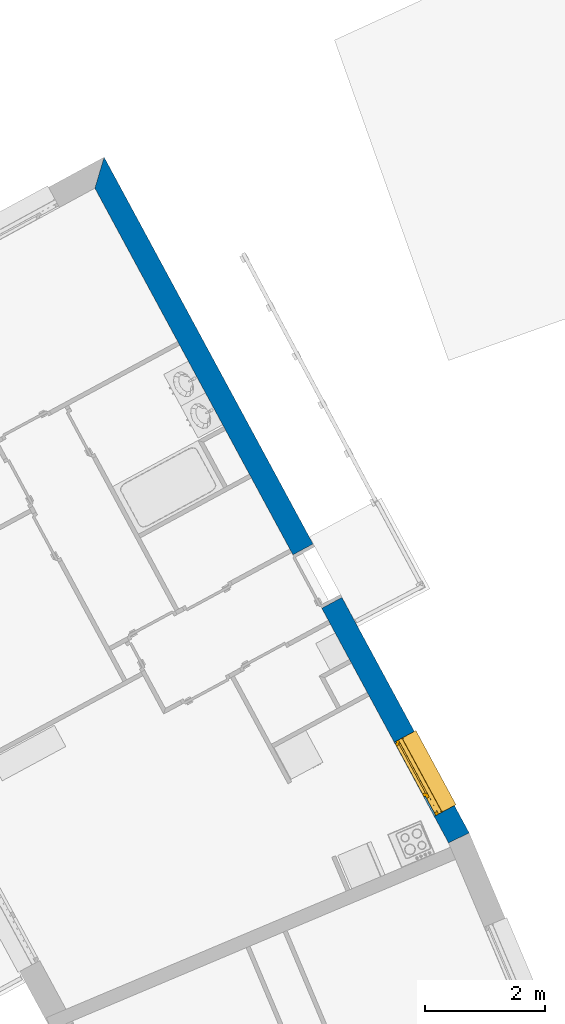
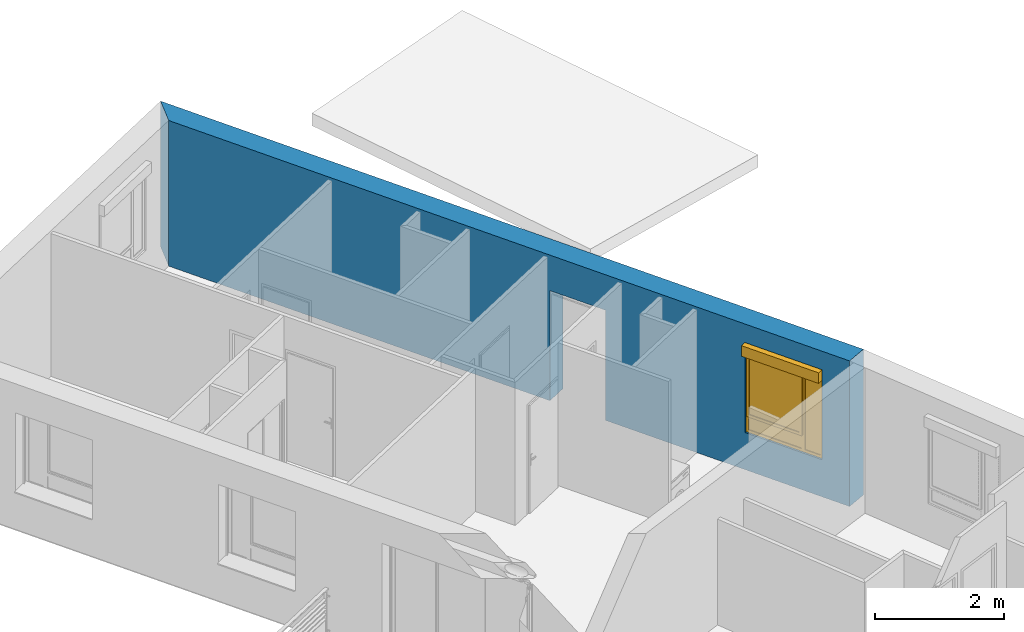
# One storey, part 57 of 121: 1 wall, 1 window, 2 openings.
"""IFC2X3 building model written with IfcOpenShell, lengths in metres."""

from ifc_helpers import new_model, entity, si_unit, converted_unit, derived_unit, money_unit, direction, frame, origin_with_axes, origin_2d_with_axis, place, context, subcontext, project, spatial, polyline, rectangle, outline, extrude, open_shell, faceted_brep, surface_model, source, transform, mapped, material, layer, layer_set, layer_usage, type_object, element, fill, save


model = new_model("IFC2X3")

# Units and contexts
model_context = context("Model", 3, precision=1e-05, world=origin_with_axes(), true_north=direction((0.0, 1.0)))
body_context = subcontext(model_context, "Body", "Model", "MODEL_VIEW")
ifc_project = project(units=[si_unit("LENGTHUNIT", "METRE"), si_unit("AREAUNIT", "SQUARE_METRE"), si_unit("VOLUMEUNIT", "CUBIC_METRE"), converted_unit("PLANEANGLEUNIT", "DEGREE", entity("IfcPlaneAngleMeasure", 0.0174532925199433), si_unit("PLANEANGLEUNIT", "RADIAN"), dimensions=[0, 0, 0, 0, 0, 0, 0]), money_unit("CHF"), converted_unit("TIMEUNIT", "Year", entity("IfcTimeMeasure", 31557600.0), si_unit("TIMEUNIT", "SECOND"), dimensions=[0, 0, 1, 0, 0, 0, 0]), si_unit("MASSUNIT", "GRAM", prefix="KILO"), si_unit("THERMODYNAMICTEMPERATUREUNIT", "DEGREE_CELSIUS"), si_unit("LUMINOUSINTENSITYUNIT", "LUMEN"), si_unit("ENERGYUNIT", "JOULE", prefix="MEGA"), derived_unit("THERMALCONDUCTANCEUNIT", [(si_unit("POWERUNIT", "WATT"), 1), (si_unit("LENGTHUNIT", "METRE"), -1), (si_unit("THERMODYNAMICTEMPERATUREUNIT", "KELVIN"), -1)]), derived_unit("SPECIFICHEATCAPACITYUNIT", [(si_unit("ENERGYUNIT", "JOULE"), 1), (si_unit("MASSUNIT", "GRAM", prefix="KILO"), -1), (si_unit("THERMODYNAMICTEMPERATUREUNIT", "KELVIN"), -1)]), derived_unit("MASSDENSITYUNIT", [(si_unit("MASSUNIT", "GRAM", prefix="KILO"), 1), (si_unit("VOLUMEUNIT", "CUBIC_METRE"), -1)])], contexts=[model_context])

# Site, building, storey
site_placement = place(None, origin_with_axes())
site = spatial("IfcSite", under=ifc_project, at=site_placement, Name="Site", CompositionType="ELEMENT")
building_placement = place(site_placement, origin_with_axes())
building = spatial("IfcBuilding", under=site, at=building_placement, Name="Bâtiment", CompositionType="ELEMENT")
storey_placement = place(building_placement, frame((0.0, 0.0, 2.75), z_axis=(0.0, 0.0, 1.0), x_axis=(1.0, 0.0, 0.0)))
storey = spatial("IfcBuildingStorey", under=building, at=storey_placement, Name="Etage 1", CompositionType="ELEMENT", Elevation=2.75)

# Wall, openings, window
ifc_material_1 = material(Name="Parpaing 312445824")
ifc_layer_1 = layer(ifc_material_1, 0.22, ventilated="UNKNOWN")
ifc_material_2 = material(Name="Isolant styromousse 301821074")
ifc_layer_2 = layer(ifc_material_2, 0.16, ventilated="UNKNOWN")
ifc_layer_set = layer_set([ifc_layer_1, ifc_layer_2], Name="isol int 22+16 0836643197")
ifc_layer_usage = layer_usage(ifc_layer_set, "AXIS2", "NEGATIVE", 0.0)
wall_type = type_object("IfcWallType", Name="isol int 22+16 0836643197 380", PredefinedType="NOTDEFINED")
wall_placement = place(storey_placement, frame((9561.285709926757, -1024.008620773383, 57.7), z_axis=(0.0, 0.0, 1.0), x_axis=(0.4753186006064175, -0.8798137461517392, 0.0)))
wall = element("IfcWallStandardCase", 1, at=wall_placement, inside=storey, type_object=wall_type, material=ifc_layer_usage, Name="Mur-113", context=body_context, shape_type="SweptSolid", body=[
    extrude(outline(polyline([(0.3809761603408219, -0.3800000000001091), (12.75104633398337, -0.3799999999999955), (12.76934803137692, 0.0), (0.0, 0.0), (0.3809761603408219, -0.3800000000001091)])), origin_with_axes(), (0.0, 0.0, 1.0), 2.75),
])
opening_1_placement = place(wall_placement, frame((11.55059904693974, 0.0, 0.7000000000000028), z_axis=(0.0, 0.0, 1.0), x_axis=(1.0, 0.0, 0.0)))
opening_1 = element("IfcOpeningElement", 2, at=opening_1_placement, cuts=wall, Name="Fen-045", context=body_context, shape_type="Brep", body=[
    faceted_brep([(-0.6999999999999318, -0.2199999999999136, 1.5), (0.7000000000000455, -0.2199999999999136, 1.5), (0.7000000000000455, 5.341037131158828, 1.5), (-0.7000000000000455, 5.341037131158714, 1.5), (-0.6999999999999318, -0.2199999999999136, 1.700000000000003), (0.7000000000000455, -0.2199999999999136, 1.700000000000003), (0.7000000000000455, -0.3000000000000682, 1.5), (0.7000000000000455, -0.3000000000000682, 0.0), (0.7000000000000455, 5.341037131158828, 0.0), (-0.7000000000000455, 5.341037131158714, 0.0), (-0.7000000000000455, -0.3000000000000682, 1.5), (-0.7000000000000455, -0.3000000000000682, 0.0), (-0.7000000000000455, -0.4800000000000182, 1.5), (-0.7000000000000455, -0.4800000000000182, 1.700000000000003), (0.7000000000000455, -0.4800000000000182, 1.700000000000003), (0.7000000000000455, -0.4800000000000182, 1.5), (0.7000000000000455, -5.721037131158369, 1.5), (0.7000000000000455, -5.721037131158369, 0.0), (-0.7000000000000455, -5.721037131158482, 0.0), (-0.7000000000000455, -5.721037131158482, 1.5)], [[[0, 1, 2, 3]], [[1, 0, 4, 5]], [[1, 6, 7, 8, 2]], [[2, 8, 9, 3]], [[10, 0, 3, 9, 11]], [[0, 10, 12, 13, 4]], [[14, 5, 4, 13]], [[6, 1, 5, 14, 15]], [[6, 15, 16, 17, 7]], [[7, 11, 9, 8]], [[12, 10, 11, 18, 19]], [[12, 15, 14, 13]], [[15, 12, 19, 16]], [[19, 18, 17, 16]], [[11, 7, 17, 18]]]),
])
opening_2_placement = place(wall_placement, frame((7.813459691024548, 0.0, 0.0), z_axis=(0.0, 0.0, 1.0), x_axis=(1.0, 0.0, 0.0)))
element("IfcOpeningElement", 3, at=opening_2_placement, cuts=wall, Name="Por-299", context=body_context, shape_type="SweptSolid", body=[
    extrude(rectangle(XDim=1.01000001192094, YDim=2.079999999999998, at=origin_2d_with_axis()), frame((-5.960544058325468e-09, 0.3799999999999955, 1.039999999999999), z_axis=(0.0, -1.0, 0.0), x_axis=(-1.0, 0.0, 0.0)), (0.0, 0.0, 1.0), 0.76),
])
window_style = type_object("IfcWindowStyle", Name="Fenêtre variable 27", ConstructionType="NOTDEFINED", OperationType="TRIPLE_PANEL_LEFT", ParameterTakesPrecedence=False, Sizeable=False)
shared_shape = source(origin_with_axes(), body_context, "Body", "SurfaceModel", [
    surface_model("IfcShellBasedSurfaceModel", [(0.7, -0.05100000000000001, 0.05), (-0.7, -0.05100000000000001, 0.05000000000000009), (-0.7, -0.05100000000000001, 0.04000000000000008), (0.7, -0.05100000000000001, 0.04), (-0.7, -0.3799999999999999, 0.02900000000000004), (0.7, -0.3799999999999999, 0.02899999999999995), (-0.7, -0.3799999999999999, 0.00900000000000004), (0.7, -0.3799999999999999, 0.008999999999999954), (-0.7, -0.3699999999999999, 0.01900000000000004), (0.7, -0.3699999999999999, 0.01899999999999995)], [open_shell([[[0, 1, 2, 3]], [[3, 2, 4, 5]], [[5, 4, 6, 7]], [[7, 6, 8, 9]]])]),
    faceted_brep([(0.7, -0.13, 1.7), (0.7, 0.13, 1.7), (0.697, 0.13, 1.7), (0.697, -0.13, 1.7), (0.7, -0.13, 1.5), (0.7, 0.13, 1.5), (0.697, 0.13, 1.5), (0.697, -0.13, 1.5)], [[[0, 1, 2, 3]], [[0, 4, 5, 1]], [[1, 5, 6, 2]], [[3, 2, 6, 7]], [[4, 0, 3, 7]], [[5, 4, 7, 6]]]),
    faceted_brep([(-0.6970000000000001, -0.1299999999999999, 1.7), (-0.6970000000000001, 0.1300000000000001, 1.7), (-0.7000000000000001, 0.1300000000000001, 1.7), (-0.7000000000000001, -0.1299999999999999, 1.7), (-0.6970000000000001, -0.1299999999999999, 1.5), (-0.6970000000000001, 0.1300000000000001, 1.5), (-0.7000000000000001, 0.1300000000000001, 1.5), (-0.7000000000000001, -0.1299999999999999, 1.5)], [[[0, 1, 2, 3]], [[0, 4, 5, 1]], [[1, 5, 6, 2]], [[3, 2, 6, 7]], [[4, 0, 3, 7]], [[5, 4, 7, 6]]]),
    faceted_brep([(0.697, -0.13, 1.5), (0.697, -0.13, 1.7), (-0.697, -0.1299999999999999, 1.7), (-0.697, -0.1299999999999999, 1.5), (0.697, -0.127, 1.5), (0.697, -0.127, 1.697), (0.697, 0.127, 1.697), (0.697, 0.127, 1.503), (0.697, -0.108, 1.503), (0.697, -0.108, 1.5), (0.697, 0.13, 1.5), (0.697, 0.13, 1.7), (-0.697, 0.1300000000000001, 1.7), (-0.697, 0.1300000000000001, 1.5), (-0.697, -0.1079999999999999, 1.5), (-0.697, -0.1079999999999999, 1.503), (-0.697, 0.1270000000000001, 1.503), (-0.697, 0.1270000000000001, 1.697), (-0.697, -0.1269999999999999, 1.697), (-0.697, -0.1269999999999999, 1.5)], [[[0, 1, 2, 3]], [[0, 4, 5, 6, 7, 8, 9, 10, 11, 1]], [[1, 11, 12, 2]], [[3, 2, 12, 13, 14, 15, 16, 17, 18, 19]], [[4, 0, 3, 19]], [[5, 4, 19, 18]], [[6, 5, 18, 17]], [[7, 6, 17, 16]], [[8, 7, 16, 15]], [[9, 8, 15, 14]], [[10, 9, 14, 13]], [[11, 10, 13, 12]]]),
    faceted_brep([(0.694, -0.08075423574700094, 1.585760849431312), (0.694, -0.07705479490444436, 1.571954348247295), (0.694, -0.07101408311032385, 1.559), (0.694, -0.06281564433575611, 1.547291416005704), (0.694, -0.05270858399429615, 1.537184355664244), (0.694, -0.04099999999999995, 1.528985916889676), (0.694, -0.02804565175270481, 1.522945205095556), (0.694, -0.01423915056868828, 1.519245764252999), (0.694, 0.0, 1.518), (0.694, 0.01423915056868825, 1.519245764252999), (0.694, 0.02804565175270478, 1.522945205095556), (0.694, 0.04099999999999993, 1.528985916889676), (0.694, 0.05270858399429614, 1.537184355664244), (0.694, 0.06281564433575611, 1.547291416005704), (0.694, 0.07101408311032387, 1.559), (0.694, 0.07705479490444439, 1.571954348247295), (0.694, 0.08075423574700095, 1.585760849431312), (0.694, 0.0819999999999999, 1.6), (0.694, 0.08075423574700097, 1.614239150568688), (0.694, 0.0770547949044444, 1.628045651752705), (0.694, 0.07101408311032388, 1.641), (0.694, 0.06281564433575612, 1.652708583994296), (0.694, 0.05270858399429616, 1.662815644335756), (0.694, 0.04099999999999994, 1.671014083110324), (0.694, 0.02804565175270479, 1.677054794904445), (0.694, 0.01423915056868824, 1.680754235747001), (0.694, 0.0, 1.682), (0.694, -0.01423915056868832, 1.680754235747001), (0.694, -0.02804565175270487, 1.677054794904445), (0.694, -0.04100000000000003, 1.671014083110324), (0.694, -0.05270858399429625, 1.662815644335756), (0.694, -0.06281564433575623, 1.652708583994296), (0.694, -0.07101408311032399, 1.641), (0.694, -0.07705479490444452, 1.628045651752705), (0.694, -0.0807542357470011, 1.614239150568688), (0.694, -0.08200000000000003, 1.6), (-0.694, -0.08075423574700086, 1.585760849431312), (-0.694, -0.07705479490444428, 1.571954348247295), (-0.694, -0.07101408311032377, 1.559), (-0.694, -0.06281564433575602, 1.547291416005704), (-0.694, -0.05270858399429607, 1.537184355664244), (-0.694, -0.04099999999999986, 1.528985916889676), (-0.694, -0.02804565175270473, 1.522945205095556), (-0.694, -0.0142391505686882, 1.519245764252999), (-0.694, 0.0, 1.518), (-0.694, 0.01423915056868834, 1.519245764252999), (-0.694, 0.02804565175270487, 1.522945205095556), (-0.694, 0.04100000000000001, 1.528985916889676), (-0.694, 0.05270858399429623, 1.537184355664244), (-0.694, 0.06281564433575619, 1.547291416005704), (-0.694, 0.07101408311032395, 1.559), (-0.694, 0.07705479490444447, 1.571954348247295), (-0.694, 0.08075423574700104, 1.585760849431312), (-0.694, 0.08199999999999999, 1.6), (-0.694, 0.08075423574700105, 1.614239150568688), (-0.694, 0.07705479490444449, 1.628045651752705), (-0.694, 0.07101408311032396, 1.641), (-0.694, 0.0628156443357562, 1.652708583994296), (-0.694, 0.05270858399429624, 1.662815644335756), (-0.694, 0.04100000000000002, 1.671014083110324), (-0.694, 0.02804565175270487, 1.677054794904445), (-0.694, 0.01423915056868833, 1.680754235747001), (-0.694, 0.0, 1.682), (-0.694, -0.01423915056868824, 1.680754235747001), (-0.694, -0.02804565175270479, 1.677054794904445), (-0.694, -0.04099999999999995, 1.671014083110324), (-0.694, -0.05270858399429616, 1.662815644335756), (-0.694, -0.06281564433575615, 1.652708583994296), (-0.694, -0.07101408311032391, 1.641), (-0.694, -0.07705479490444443, 1.628045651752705), (-0.694, -0.08075423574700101, 1.614239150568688), (-0.694, -0.08199999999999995, 1.6)], [[[0, 1, 2, 3, 4, 5, 6, 7, 8, 9, 10, 11, 12, 13, 14, 15, 16, 17, 18, 19, 20, 21, 22, 23, 24, 25, 26, 27, 28, 29, 30, 31, 32, 33, 34, 35]], [[1, 0, 36, 37]], [[2, 1, 37, 38]], [[3, 2, 38, 39]], [[4, 3, 39, 40]], [[5, 4, 40, 41]], [[6, 5, 41, 42]], [[7, 6, 42, 43]], [[8, 7, 43, 44]], [[9, 8, 44, 45]], [[10, 9, 45, 46]], [[11, 10, 46, 47]], [[12, 11, 47, 48]], [[13, 12, 48, 49]], [[14, 13, 49, 50]], [[15, 14, 50, 51]], [[16, 15, 51, 52]], [[17, 16, 52, 53]], [[18, 17, 53, 54]], [[19, 18, 54, 55]], [[20, 19, 55, 56]], [[21, 20, 56, 57]], [[22, 21, 57, 58]], [[23, 22, 58, 59]], [[24, 23, 59, 60]], [[25, 24, 60, 61]], [[26, 25, 61, 62]], [[27, 26, 62, 63]], [[28, 27, 63, 64]], [[29, 28, 64, 65]], [[30, 29, 65, 66]], [[31, 30, 66, 67]], [[32, 31, 67, 68]], [[33, 32, 68, 69]], [[34, 33, 69, 70]], [[35, 34, 70, 71]], [[0, 35, 71, 36]], [[36, 71, 70, 69, 68, 67, 66, 65, 64, 63, 62, 61, 60, 59, 58, 57, 56, 55, 54, 53, 52, 51, 50, 49, 48, 47, 46, 45, 44, 43, 42, 41, 40, 39, 38, 37]]]),
    faceted_brep([(-0.7, -0.105, 0.03), (-0.7, -0.13, 0.03), (-0.7, -0.1299999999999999, 1.5), (-0.7, -0.1049999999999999, 1.5), (-0.6749999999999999, -0.105, 0.03), (-0.6749999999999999, -0.108, 0.03), (-0.697, -0.108, 0.03), (-0.697, -0.127, 0.03), (-0.6749999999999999, -0.127, 0.03), (-0.6749999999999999, -0.13, 0.03), (-0.6749999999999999, -0.1299999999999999, 1.5), (-0.6749999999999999, -0.1269999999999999, 1.5), (-0.697, -0.1269999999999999, 1.5), (-0.697, -0.1079999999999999, 1.5), (-0.6749999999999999, -0.1079999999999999, 1.5), (-0.6749999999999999, -0.1049999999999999, 1.5)], [[[0, 1, 2, 3]], [[0, 4, 5, 6, 7, 8, 9, 1]], [[1, 9, 10, 2]], [[3, 2, 10, 11, 12, 13, 14, 15]], [[4, 0, 3, 15]], [[5, 4, 15, 14]], [[6, 5, 14, 13]], [[7, 6, 13, 12]], [[8, 7, 12, 11]], [[9, 8, 11, 10]]]),
    faceted_brep([(0.7, -0.105, 0.03), (0.7, -0.1049999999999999, 1.5), (0.7, -0.1299999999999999, 1.5), (0.7, -0.13, 0.03), (0.6749999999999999, -0.105, 0.03), (0.6749999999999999, -0.1049999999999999, 1.5), (0.6749999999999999, -0.1079999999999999, 1.5), (0.697, -0.1079999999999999, 1.5), (0.697, -0.1269999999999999, 1.5), (0.6749999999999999, -0.1269999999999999, 1.5), (0.6749999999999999, -0.1299999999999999, 1.5), (0.6749999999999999, -0.13, 0.03), (0.6749999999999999, -0.127, 0.03), (0.697, -0.127, 0.03), (0.697, -0.108, 0.03), (0.6749999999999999, -0.108, 0.03)], [[[0, 1, 2, 3]], [[4, 5, 1, 0]], [[1, 5, 6, 7, 8, 9, 10, 2]], [[3, 2, 10, 11]], [[0, 3, 11, 12, 13, 14, 15, 4]], [[15, 6, 5, 4]], [[14, 7, 6, 15]], [[13, 8, 7, 14]], [[12, 9, 8, 13]], [[11, 10, 9, 12]]]),
    surface_model("IfcShellBasedSurfaceModel", [(0.697, -0.115, 1.6), (-0.697, -0.1149999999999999, 1.6), (-0.697, -0.12, 1.6), (0.697, -0.12, 1.6), (0.697, -0.115, 1.6), (0.697, -0.12, 1.6), (-0.697, -0.1199999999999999, 1.6), (-0.697, -0.1149999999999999, 1.6)], [open_shell([[[0, 1, 2, 3]], [[4, 5, 6, 7]]])]),
    faceted_brep([(0.697, -0.115, 1.6), (0.697, -0.1166666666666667, 1.583333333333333), (-0.697, -0.1166666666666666, 1.583333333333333), (-0.697, -0.1149999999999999, 1.6), (0.697, -0.12, 1.6), (0.697, -0.1216666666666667, 1.583333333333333), (0.697, -0.1216666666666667, 1.566666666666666), (0.697, -0.12, 1.55), (0.697, -0.115, 1.55), (0.697, -0.1166666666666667, 1.566666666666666), (-0.697, -0.1166666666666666, 1.566666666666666), (-0.697, -0.1149999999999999, 1.55), (-0.697, -0.1199999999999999, 1.55), (-0.697, -0.1216666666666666, 1.566666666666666), (-0.697, -0.1216666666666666, 1.583333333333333), (-0.697, -0.1199999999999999, 1.6)], [[[0, 1, 2, 3]], [[0, 4, 5, 6, 7, 8, 9, 1]], [[1, 9, 10, 2]], [[3, 2, 10, 11, 12, 13, 14, 15]], [[4, 0, 3, 15]], [[5, 4, 15, 14]], [[6, 5, 14, 13]], [[7, 6, 13, 12]], [[8, 7, 12, 11]], [[9, 8, 11, 10]]]),
    faceted_brep([(0.697, -0.115, 1.55), (0.697, -0.1166666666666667, 1.533333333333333), (-0.697, -0.1166666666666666, 1.533333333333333), (-0.697, -0.1149999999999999, 1.55), (0.697, -0.12, 1.55), (0.697, -0.1216666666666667, 1.533333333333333), (0.697, -0.1216666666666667, 1.516666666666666), (0.697, -0.12, 1.5), (0.697, -0.115, 1.5), (0.697, -0.1166666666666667, 1.516666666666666), (-0.697, -0.1166666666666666, 1.516666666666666), (-0.697, -0.1149999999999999, 1.5), (-0.697, -0.1199999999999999, 1.5), (-0.697, -0.1216666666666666, 1.516666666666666), (-0.697, -0.1216666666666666, 1.533333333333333), (-0.697, -0.1199999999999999, 1.55)], [[[0, 1, 2, 3]], [[0, 4, 5, 6, 7, 8, 9, 1]], [[1, 9, 10, 2]], [[3, 2, 10, 11, 12, 13, 14, 15]], [[4, 0, 3, 15]], [[5, 4, 15, 14]], [[6, 5, 14, 13]], [[7, 6, 13, 12]], [[8, 7, 12, 11]], [[9, 8, 11, 10]]]),
    faceted_brep([(0.6749999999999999, 0.0, 1.45), (0.6749999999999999, -0.02500000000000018, 1.45), (0.6499999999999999, -0.02500000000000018, 1.45), (0.6499999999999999, -0.05000000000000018, 1.45), (0.7, -0.05000000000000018, 1.45), (0.7, 0.0, 1.45), (0.6749999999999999, 0.0, 0.3099999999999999), (0.6749999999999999, -0.02500000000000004, 0.3099999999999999), (0.6499999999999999, -0.02500000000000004, 0.335), (0.6499999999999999, -0.02500000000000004, 0.3099999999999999), (0.6499999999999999, -0.05000000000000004, 0.335), (0.6499999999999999, -0.05000000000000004, 0.265), (0.6499999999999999, -0.05000000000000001, 0.05000000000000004), (0.7, -0.05000000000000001, 0.05000000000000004), (0.7, 0.0, 0.05000000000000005), (0.6499999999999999, 0.0, 0.05000000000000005), (0.6499999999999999, 0.0, 0.265), (0.6499999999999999, 0.0, 0.3099999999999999)], [[[0, 1, 2, 3, 4, 5]], [[1, 0, 6, 7]], [[8, 2, 1, 7, 9]], [[2, 8, 10, 3]], [[10, 11, 12, 13, 4, 3]], [[5, 4, 13, 14]], [[6, 0, 5, 14, 15, 16, 17]], [[6, 17, 9, 7]], [[9, 17, 16, 11, 10, 8]], [[15, 12, 11, 16]], [[14, 13, 12, 15]]]),
    faceted_brep([(-0.3068894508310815, -0.02500000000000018, 1.45), (-0.3318894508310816, -0.02500000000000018, 1.45), (-0.3318894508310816, 0.0, 1.45), (-0.3768894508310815, 0.0, 1.45), (-0.3768894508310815, -0.05000000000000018, 1.45), (-0.3068894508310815, -0.05000000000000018, 1.45), (-0.3068894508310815, -0.02500000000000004, 0.335), (-0.3068894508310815, -0.02500000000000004, 0.3099999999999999), (-0.3318894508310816, -0.02500000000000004, 0.3099999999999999), (-0.3318894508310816, 0.0, 0.3099999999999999), (-0.3068894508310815, 0.0, 0.3099999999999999), (-0.3068894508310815, 0.0, 0.265), (-0.3068894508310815, 0.0, 0.05000000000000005), (-0.3768894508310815, 0.0, 0.05000000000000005), (-0.3768894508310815, -0.05000000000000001, 0.05000000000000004), (-0.3068894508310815, -0.05000000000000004, 0.265), (-0.3068894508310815, -0.05000000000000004, 0.335), (-0.3068894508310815, -0.05000000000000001, 0.05000000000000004)], [[[0, 1, 2, 3, 4, 5]], [[1, 0, 6, 7, 8]], [[9, 2, 1, 8]], [[9, 10, 11, 12, 13, 3, 2]], [[13, 14, 4, 3]], [[15, 16, 5, 4, 14, 17]], [[6, 0, 5, 16]], [[7, 6, 16, 15, 11, 10]], [[10, 9, 8, 7]], [[11, 15, 17, 12]], [[12, 17, 14, 13]]]),
    faceted_brep([(0.6499999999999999, -0.02500000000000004, 0.335), (-0.3068894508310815, -0.02500000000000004, 0.335), (-0.3068894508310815, -0.05000000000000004, 0.335), (0.6499999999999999, -0.05000000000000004, 0.335), (-0.3068894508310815, -0.02500000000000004, 0.3099999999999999), (0.6499999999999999, -0.02500000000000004, 0.3099999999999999), (-0.3068894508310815, 0.0, 0.3099999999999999), (-0.3068894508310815, 0.0, 0.265), (-0.3068894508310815, -0.05000000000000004, 0.265), (0.6499999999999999, -0.05000000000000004, 0.265), (0.6499999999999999, 0.0, 0.265), (0.6499999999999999, 0.0, 0.3099999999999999)], [[[0, 1, 2, 3]], [[4, 1, 0, 5]], [[4, 6, 7, 8, 2, 1]], [[2, 8, 9, 3]], [[5, 0, 3, 9, 10, 11]], [[11, 6, 4, 5]], [[6, 11, 10, 7]], [[10, 9, 8, 7]]]),
    faceted_brep([(0.6749999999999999, 0.0, 1.45), (0.6749999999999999, 0.0, 1.475), (-0.3318894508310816, 0.0, 1.475), (-0.3318894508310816, 0.0, 1.45), (-0.3768894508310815, 0.0, 1.45), (-0.6499999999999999, 0.0, 1.45), (-0.7, 0.0, 1.45), (-0.7, 0.0, 1.5), (0.7, 0.0, 1.5), (0.7, 0.0, 1.45), (0.6749999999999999, -0.02500000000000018, 1.45), (0.6749999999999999, -0.02500000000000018, 1.475), (-0.3318894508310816, -0.02500000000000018, 1.475), (-0.3318894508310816, -0.02500000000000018, 1.45), (-0.3068894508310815, -0.02500000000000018, 1.45), (-0.3068894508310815, -0.05000000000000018, 1.45), (-0.3768894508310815, -0.05000000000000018, 1.45), (-0.6499999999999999, -0.05000000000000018, 1.45), (-0.7, -0.05000000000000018, 1.45), (-0.7, -0.05000000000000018, 1.5), (0.7, -0.05000000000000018, 1.5), (0.7, -0.05000000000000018, 1.45), (0.6499999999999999, -0.05000000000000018, 1.45), (0.6499999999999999, -0.02500000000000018, 1.45)], [[[0, 1, 2, 3, 4, 5, 6, 7, 8, 9]], [[1, 0, 10, 11]], [[2, 1, 11, 12]], [[3, 2, 12, 13]], [[13, 14, 15, 16, 4, 3]], [[4, 16, 17, 5]], [[5, 17, 18, 6]], [[6, 18, 19, 7]], [[7, 19, 20, 8]], [[8, 20, 21, 9]], [[10, 0, 9, 21, 22, 23]], [[14, 13, 12, 11, 10, 23]], [[14, 23, 22, 15]], [[16, 15, 22, 21, 20, 19, 18, 17]]]),
    faceted_brep([(-0.6499999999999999, -0.05000000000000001, 0.05), (-0.7, -0.05000000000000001, 0.05), (-0.7, 0.0, 0.05000000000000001), (-0.6499999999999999, 0.0, 0.05000000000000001), (-0.6499999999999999, -0.05000000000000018, 1.45), (-0.7, -0.05000000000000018, 1.45), (-0.7, 0.0, 1.45), (-0.6499999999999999, 0.0, 1.45)], [[[0, 1, 2, 3]], [[0, 4, 5, 1]], [[1, 5, 6, 2]], [[3, 2, 6, 7]], [[4, 0, 3, 7]], [[5, 4, 7, 6]]]),
    faceted_brep([(0.6499999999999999, -0.05000000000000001, 0.05), (0.7, -0.05000000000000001, 0.05), (0.7, 0.0, 0.05000000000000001), (0.6499999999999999, 0.0, 0.05000000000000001), (-0.3068894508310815, -0.05000000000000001, 0.05), (-0.3768894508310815, -0.05000000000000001, 0.05), (-0.6499999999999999, -0.05000000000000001, 0.05), (-0.7, -0.05000000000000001, 0.05), (-0.7, -0.05, 0.0), (0.7, -0.05, 0.0), (0.7, 0.0, 0.0), (-0.7, 0.0, 0.0), (-0.7, 0.0, 0.05000000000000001), (-0.6499999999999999, 0.0, 0.05000000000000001), (-0.3768894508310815, 0.0, 0.05000000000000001), (-0.3068894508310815, 0.0, 0.05000000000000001)], [[[0, 1, 2, 3]], [[0, 4, 5, 6, 7, 8, 9, 1]], [[1, 9, 10, 2]], [[3, 2, 10, 11, 12, 13, 14, 15]], [[4, 0, 3, 15]], [[5, 4, 15, 14]], [[6, 5, 14, 13]], [[7, 6, 13, 12]], [[8, 7, 12, 11]], [[9, 8, 11, 10]]]),
    faceted_brep([(0.625, -0.02500000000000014, 1.425), (0.6749999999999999, -0.02500000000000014, 1.425), (0.6749999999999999, 0.02499999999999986, 1.425), (0.625, 0.02499999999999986, 1.425), (0.625, -0.02500000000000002, 0.3599999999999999), (0.6749999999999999, -0.02500000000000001, 0.3599999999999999), (0.6749999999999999, 0.02499999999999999, 0.3599999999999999), (0.625, 0.02499999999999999, 0.3599999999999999)], [[[0, 1, 2, 3]], [[0, 4, 5, 1]], [[1, 5, 6, 2]], [[3, 2, 6, 7]], [[4, 0, 3, 7]], [[5, 4, 7, 6]]]),
    faceted_brep([(-0.2818894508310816, -0.02500000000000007, 0.3599999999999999), (-0.3318894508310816, -0.02500000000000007, 0.3599999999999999), (-0.3318894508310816, 0.02499999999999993, 0.3599999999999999), (-0.2818894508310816, 0.02499999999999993, 0.3599999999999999), (-0.2818894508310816, -0.0250000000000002, 1.425), (-0.3318894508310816, -0.0250000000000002, 1.425), (-0.3318894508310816, 0.0249999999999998, 1.425), (-0.2818894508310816, 0.0249999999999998, 1.425)], [[[0, 1, 2, 3]], [[0, 4, 5, 1]], [[1, 5, 6, 2]], [[3, 2, 6, 7]], [[4, 0, 3, 7]], [[5, 4, 7, 6]]]),
    faceted_brep([(-0.3318894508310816, -0.02500000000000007, 0.3099999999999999), (-0.3318894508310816, -0.02500000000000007, 0.3599999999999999), (-0.3318894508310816, 0.02499999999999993, 0.3599999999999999), (-0.3318894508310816, 0.02499999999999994, 0.3099999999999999), (0.6749999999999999, -0.025, 0.3099999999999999), (0.6749999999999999, -0.02500000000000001, 0.3599999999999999), (0.625, -0.02500000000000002, 0.3599999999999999), (-0.2818894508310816, -0.02500000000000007, 0.3599999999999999), (-0.2818894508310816, 0.02499999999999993, 0.3599999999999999), (0.625, 0.02499999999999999, 0.3599999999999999), (0.6749999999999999, 0.02499999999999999, 0.3599999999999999), (0.6749999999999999, 0.02499999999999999, 0.3099999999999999)], [[[0, 1, 2, 3]], [[0, 4, 5, 6, 7, 1]], [[1, 7, 8, 2]], [[3, 2, 8, 9, 10, 11]], [[4, 0, 3, 11]], [[5, 4, 11, 10]], [[6, 5, 10, 9]], [[7, 6, 9, 8]]]),
    faceted_brep([(0.6749999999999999, -0.02500000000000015, 1.475), (0.6749999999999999, -0.02500000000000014, 1.425), (0.6749999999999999, 0.02499999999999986, 1.425), (0.6749999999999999, 0.02499999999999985, 1.475), (-0.3318894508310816, -0.02500000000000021, 1.475), (-0.3318894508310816, -0.0250000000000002, 1.425), (-0.2818894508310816, -0.0250000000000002, 1.425), (0.625, -0.02500000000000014, 1.425), (0.625, 0.02499999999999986, 1.425), (-0.2818894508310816, 0.0249999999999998, 1.425), (-0.3318894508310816, 0.0249999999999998, 1.425), (-0.3318894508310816, 0.02499999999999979, 1.475)], [[[0, 1, 2, 3]], [[0, 4, 5, 6, 7, 1]], [[1, 7, 8, 2]], [[3, 2, 8, 9, 10, 11]], [[4, 0, 3, 11]], [[5, 4, 11, 10]], [[6, 5, 10, 9]], [[7, 6, 9, 8]]]),
    surface_model("IfcShellBasedSurfaceModel", [(0.625, -0.01000000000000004, 0.3599999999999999), (0.625, -0.01000000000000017, 1.425), (-0.2818894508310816, -0.01000000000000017, 1.425), (-0.2818894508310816, -0.01000000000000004, 0.3599999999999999)], [open_shell([[[0, 1, 2, 3]]])]),
    surface_model("IfcShellBasedSurfaceModel", [(0.625, 0.009999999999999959, 0.3599999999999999), (-0.2818894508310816, 0.009999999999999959, 0.3599999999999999), (-0.2818894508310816, 0.00999999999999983, 1.425), (0.625, 0.00999999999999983, 1.425)], [open_shell([[[0, 1, 2, 3]]])]),
    surface_model("IfcShellBasedSurfaceModel", [(-0.3768894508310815, -0.035, 0.05), (-0.3768894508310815, -0.03500000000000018, 1.45), (-0.65, -0.03500000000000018, 1.45), (-0.65, -0.035, 0.05)], [open_shell([[[0, 1, 2, 3]]])]),
    surface_model("IfcShellBasedSurfaceModel", [(-0.3768894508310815, -0.015, 0.05), (-0.65, -0.015, 0.05), (-0.65, -0.01500000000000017, 1.45), (-0.3768894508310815, -0.01500000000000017, 1.45)], [open_shell([[[0, 1, 2, 3]]])]),
    surface_model("IfcShellBasedSurfaceModel", [(0.6499999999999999, -0.035, 0.05), (0.6499999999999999, -0.03500000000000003, 0.265), (-0.3068894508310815, -0.03500000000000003, 0.265), (-0.3068894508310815, -0.035, 0.05)], [open_shell([[[0, 1, 2, 3]]])]),
    surface_model("IfcShellBasedSurfaceModel", [(0.6499999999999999, -0.015, 0.05), (-0.3068894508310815, -0.015, 0.05), (-0.3068894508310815, -0.01500000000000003, 0.265), (0.6499999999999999, -0.01500000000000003, 0.265)], [open_shell([[[0, 1, 2, 3]]])]),
])
window_placement = place(opening_1_placement, frame((0.7000000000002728, 0.0, 0.0), z_axis=(0.0, 0.0, 1.0), x_axis=(-1.0, 0.0, 0.0)))
window = element("IfcWindow", 4, at=window_placement, inside=storey, type_object=window_style, Name="Fen-045", OverallHeight=1.5, OverallWidth=1.4, context=body_context, shape_type="MappedRepresentation", body=[
    mapped(shared_shape, transform((0.7000000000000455, 0.3500000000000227, 0.0))),
])
fill(opening_1, window)

save(model, "model.ifc")
